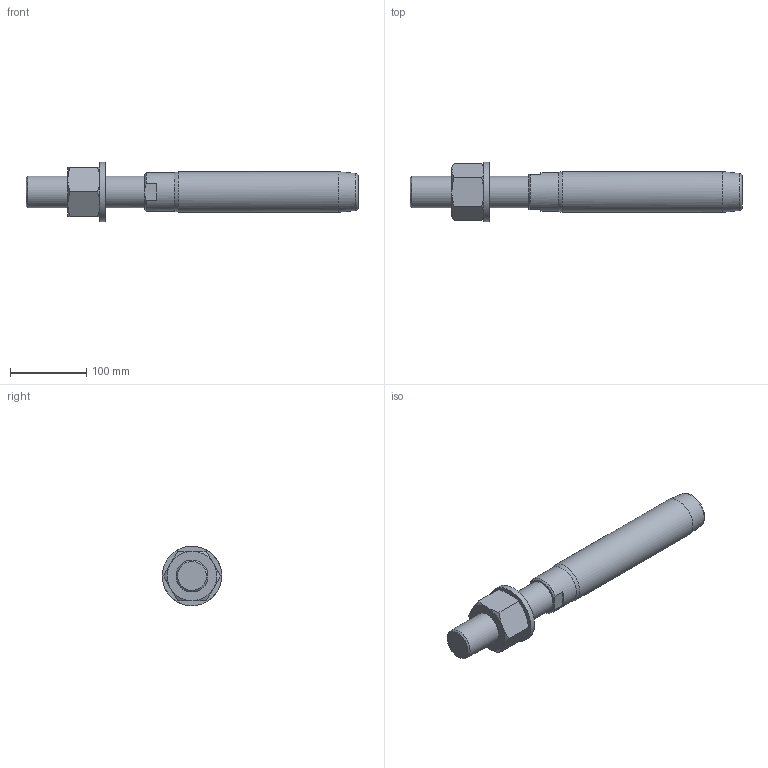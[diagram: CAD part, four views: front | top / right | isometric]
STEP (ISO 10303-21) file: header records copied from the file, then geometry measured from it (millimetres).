
FILE_DESCRIPTION(/* description */ (''),/* implementation_level */ '2;1');
FILE_NAME(/* name */ 'FLT 26_1,4462',/* time_stamp */ '2023-05-23T15:58:06+02:00',/* author */ (''),/* organization */ (''),/* preprocessor_version */ 'ST-DEVELOPER v16.5',/* originating_system */ 'Rhino 7.22',/* authorisation */ '');
FILE_SCHEMA (('CONFIG_CONTROL_DESIGN'));
Length unit declared in the file: millimetre
Products named in the file (1): Document
Bounding box: 436 x 77.99 x 77.98 mm (x, y, z)
Volume: 953285.4 mm3; surface area: 98749.9 mm2
Topology: 3 solids, 3 shells, 43 faces, 104 edges, 68 vertices
Faces by surface type: bspline 20, plane 17, cylinder 6
Full cylindrical faces by diameter (mm): 38.752 x1, 42 x1, 43 x1, 50.8 x1, 53.4 x1, 78 x1
Entity records: 1590 total; most frequent: CARTESIAN_POINT 881, ORIENTED_EDGE 208, EDGE_CURVE 104, VERTEX_POINT 68, EDGE_LOOP 48, ADVANCED_FACE 43, FACE_OUTER_BOUND 43, DIRECTION 27
